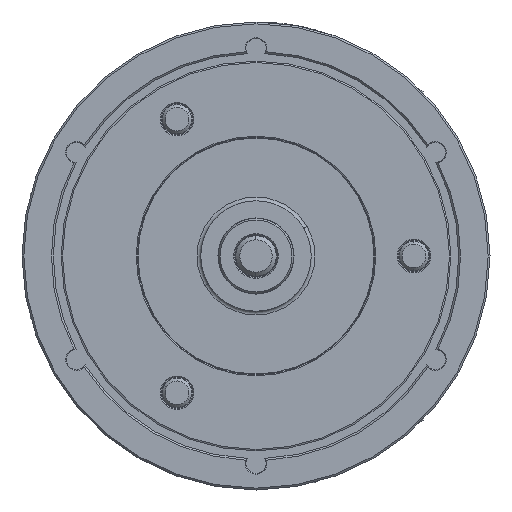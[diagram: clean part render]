
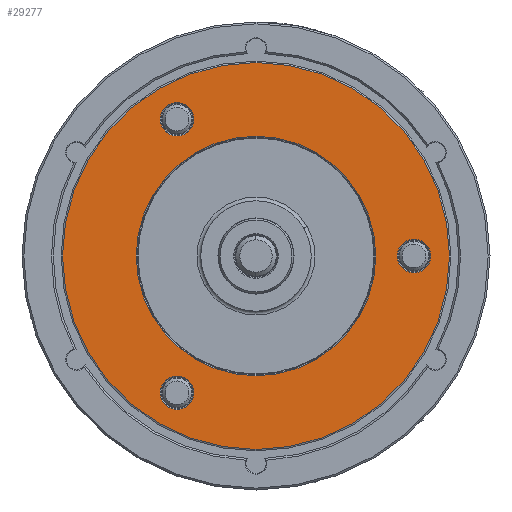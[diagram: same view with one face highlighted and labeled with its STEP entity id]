
A CAD part, left-side view. The second image highlights one B-rep face of the part: STEP entity #29277.
In plain terms, the highlighted planar face has unit normal (-1, 0, 0).
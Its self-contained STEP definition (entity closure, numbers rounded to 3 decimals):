
#781 = DIRECTION ( 'NONE',  ( 1., 0., 0. ) ) ;
#1016 = CARTESIAN_POINT ( 'NONE',  ( -100., 42.863, 83.34 ) ) ;
#2041 = EDGE_CURVE ( 'NONE', #39995, #33830, #21365, .T. ) ;
#2807 = AXIS2_PLACEMENT_3D ( 'NONE', #43519, #20861, #47344 ) ;
#3613 = FACE_BOUND ( 'NONE', #30484, .T. ) ;
#3842 = DIRECTION ( 'NONE',  ( 1., 0., 0. ) ) ;
#4196 = CARTESIAN_POINT ( 'NONE',  ( -100., 0., 0. ) ) ;
#4771 = AXIS2_PLACEMENT_3D ( 'NONE', #4196, #30847, #8026 ) ;
#5479 = EDGE_LOOP ( 'NONE', ( #17704, #11646 ) ) ;
#5511 = VERTEX_POINT ( 'NONE', #29400 ) ;
#5912 = DIRECTION ( 'NONE',  ( 1., 0., 0. ) ) ;
#6238 = CIRCLE ( 'NONE', #4771, 65. ) ;
#6287 = EDGE_CURVE ( 'NONE', #26557, #45497, #15680, .T. ) ;
#6329 = CIRCLE ( 'NONE', #44210, 105. ) ;
#6612 = CIRCLE ( 'NONE', #39097, 9.1 ) ;
#6770 = CARTESIAN_POINT ( 'NONE',  ( -100., 0., 0. ) ) ;
#7201 = CARTESIAN_POINT ( 'NONE',  ( -100., 42.862, -74.24 ) ) ;
#7951 = EDGE_CURVE ( 'NONE', #48805, #5511, #6612, .T. ) ;
#8026 = DIRECTION ( 'NONE',  ( 0., 0.866, -0.5 ) ) ;
#8468 = PLANE ( 'NONE',  #25693 ) ;
#8491 = AXIS2_PLACEMENT_3D ( 'NONE', #9271, #35853, #13128 ) ;
#9271 = CARTESIAN_POINT ( 'NONE',  ( -100., -85.725, 0. ) ) ;
#9574 = DIRECTION ( 'NONE',  ( 1., 0., 0. ) ) ;
#10642 = DIRECTION ( 'NONE',  ( 0., 0.866, -0.5 ) ) ;
#10859 = CARTESIAN_POINT ( 'NONE',  ( -100., -85.725, 9.1 ) ) ;
#11064 = DIRECTION ( 'NONE',  ( 0., 0., -1. ) ) ;
#11646 = ORIENTED_EDGE ( 'NONE', *, *, #7951, .T. ) ;
#11899 = CARTESIAN_POINT ( 'NONE',  ( -100., 90.933, -52.5 ) ) ;
#11963 = AXIS2_PLACEMENT_3D ( 'NONE', #28737, #5912, #32549 ) ;
#12230 = EDGE_CURVE ( 'NONE', #37063, #33203, #45623, .T. ) ;
#12563 = AXIS2_PLACEMENT_3D ( 'NONE', #6770, #33405, #10642 ) ;
#12612 = FACE_OUTER_BOUND ( 'NONE', #21319, .T. ) ;
#13128 = DIRECTION ( 'NONE',  ( 0., 0., -1. ) ) ;
#13478 = CIRCLE ( 'NONE', #12563, 105. ) ;
#15362 = EDGE_LOOP ( 'NONE', ( #20012, #45457 ) ) ;
#15680 = CIRCLE ( 'NONE', #28578, 9.1 ) ;
#16656 = AXIS2_PLACEMENT_3D ( 'NONE', #21892, #48388, #25654 ) ;
#17704 = ORIENTED_EDGE ( 'NONE', *, *, #41083, .T. ) ;
#17723 = ORIENTED_EDGE ( 'NONE', *, *, #2041, .T. ) ;
#20012 = ORIENTED_EDGE ( 'NONE', *, *, #12230, .F. ) ;
#20861 = DIRECTION ( 'NONE',  ( 1., 0., 0. ) ) ;
#21319 = EDGE_LOOP ( 'NONE', ( #31976, #45437 ) ) ;
#21365 = CIRCLE ( 'NONE', #2807, 9.1 ) ;
#21473 = CARTESIAN_POINT ( 'NONE',  ( -100., 0., 0. ) ) ;
#21892 = CARTESIAN_POINT ( 'NONE',  ( -100., 0., 0. ) ) ;
#22606 = ORIENTED_EDGE ( 'NONE', *, *, #44816, .T. ) ;
#22682 = CIRCLE ( 'NONE', #8491, 9.1 ) ;
#22723 = FACE_BOUND ( 'NONE', #30530, .T. ) ;
#24924 = ORIENTED_EDGE ( 'NONE', *, *, #29861, .T. ) ;
#25222 = DIRECTION ( 'NONE',  ( 0., 0.866, -0.5 ) ) ;
#25654 = DIRECTION ( 'NONE',  ( 0., 0.866, -0.5 ) ) ;
#25693 = AXIS2_PLACEMENT_3D ( 'NONE', #35075, #781, #38896 ) ;
#26557 = VERTEX_POINT ( 'NONE', #40195 ) ;
#26665 = CARTESIAN_POINT ( 'NONE',  ( -100., 42.862, -74.24 ) ) ;
#27282 = ORIENTED_EDGE ( 'NONE', *, *, #6287, .T. ) ;
#27756 = AXIS2_PLACEMENT_3D ( 'NONE', #26665, #3842, #30489 ) ;
#27759 = CARTESIAN_POINT ( 'NONE',  ( -100., 42.862, -83.34 ) ) ;
#28578 = AXIS2_PLACEMENT_3D ( 'NONE', #32363, #9574, #36139 ) ;
#28737 = CARTESIAN_POINT ( 'NONE',  ( -100., 42.863, 74.24 ) ) ;
#29277 = ADVANCED_FACE ( 'NONE', ( #3613, #12612, #42872, #22723, #35165 ), #8468, .F. ) ;
#29400 = CARTESIAN_POINT ( 'NONE',  ( -100., 42.862, -65.14 ) ) ;
#29861 = EDGE_CURVE ( 'NONE', #45497, #26557, #22682, .T. ) ;
#30484 = EDGE_LOOP ( 'NONE', ( #22606, #17723 ) ) ;
#30489 = DIRECTION ( 'NONE',  ( 0., 0., -1. ) ) ;
#30530 = EDGE_LOOP ( 'NONE', ( #24924, #27282 ) ) ;
#30585 = CARTESIAN_POINT ( 'NONE',  ( -100., -90.933, 52.5 ) ) ;
#30847 = DIRECTION ( 'NONE',  ( -1., 0., 0. ) ) ;
#31670 = CARTESIAN_POINT ( 'NONE',  ( -100., 56.292, -32.5 ) ) ;
#31976 = ORIENTED_EDGE ( 'NONE', *, *, #42716, .T. ) ;
#32363 = CARTESIAN_POINT ( 'NONE',  ( -100., -85.725, 0. ) ) ;
#32549 = DIRECTION ( 'NONE',  ( 0., 0., -1. ) ) ;
#32568 = EDGE_CURVE ( 'NONE', #36943, #48672, #6329, .T. ) ;
#33203 = VERTEX_POINT ( 'NONE', #45975 ) ;
#33405 = DIRECTION ( 'NONE',  ( -1., 0., 0. ) ) ;
#33591 = CIRCLE ( 'NONE', #11963, 9.1 ) ;
#33748 = EDGE_CURVE ( 'NONE', #33203, #37063, #6238, .T. ) ;
#33830 = VERTEX_POINT ( 'NONE', #1016 ) ;
#33834 = DIRECTION ( 'NONE',  ( 1., 0., 0. ) ) ;
#35075 = CARTESIAN_POINT ( 'NONE',  ( -100., -105., 0. ) ) ;
#35165 = FACE_BOUND ( 'NONE', #5479, .T. ) ;
#35568 = CIRCLE ( 'NONE', #27756, 9.1 ) ;
#35853 = DIRECTION ( 'NONE',  ( 1., 0., 0. ) ) ;
#36139 = DIRECTION ( 'NONE',  ( 0., 0., -1. ) ) ;
#36943 = VERTEX_POINT ( 'NONE', #11899 ) ;
#37063 = VERTEX_POINT ( 'NONE', #31670 ) ;
#38896 = DIRECTION ( 'NONE',  ( 0., 0., -1. ) ) ;
#39097 = AXIS2_PLACEMENT_3D ( 'NONE', #7201, #33834, #11064 ) ;
#39995 = VERTEX_POINT ( 'NONE', #40716 ) ;
#40195 = CARTESIAN_POINT ( 'NONE',  ( -100., -85.725, -9.1 ) ) ;
#40716 = CARTESIAN_POINT ( 'NONE',  ( -100., 42.863, 65.14 ) ) ;
#41083 = EDGE_CURVE ( 'NONE', #5511, #48805, #35568, .T. ) ;
#42716 = EDGE_CURVE ( 'NONE', #48672, #36943, #13478, .T. ) ;
#42872 = FACE_BOUND ( 'NONE', #15362, .T. ) ;
#43519 = CARTESIAN_POINT ( 'NONE',  ( -100., 42.863, 74.24 ) ) ;
#44210 = AXIS2_PLACEMENT_3D ( 'NONE', #21473, #47954, #25222 ) ;
#44816 = EDGE_CURVE ( 'NONE', #33830, #39995, #33591, .T. ) ;
#45437 = ORIENTED_EDGE ( 'NONE', *, *, #32568, .T. ) ;
#45457 = ORIENTED_EDGE ( 'NONE', *, *, #33748, .F. ) ;
#45497 = VERTEX_POINT ( 'NONE', #10859 ) ;
#45623 = CIRCLE ( 'NONE', #16656, 65. ) ;
#45975 = CARTESIAN_POINT ( 'NONE',  ( -100., -56.292, 32.5 ) ) ;
#47344 = DIRECTION ( 'NONE',  ( 0., 0., -1. ) ) ;
#47954 = DIRECTION ( 'NONE',  ( -1., 0., 0. ) ) ;
#48388 = DIRECTION ( 'NONE',  ( -1., 0., 0. ) ) ;
#48672 = VERTEX_POINT ( 'NONE', #30585 ) ;
#48805 = VERTEX_POINT ( 'NONE', #27759 ) ;
